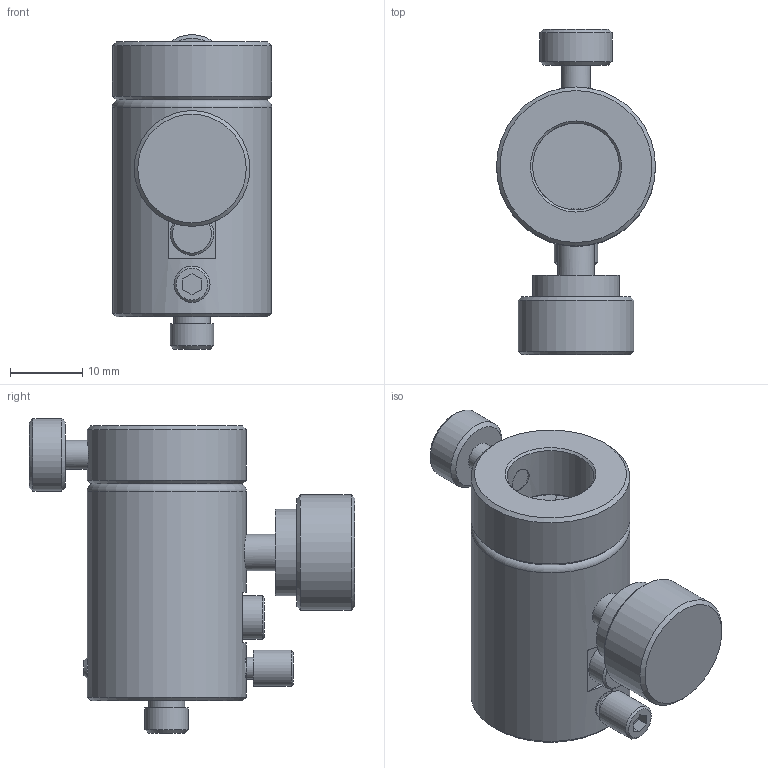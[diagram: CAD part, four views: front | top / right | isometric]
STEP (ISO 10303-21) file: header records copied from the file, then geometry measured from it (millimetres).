
FILE_DESCRIPTION(/* description */ (''),/* implementation_level */ '2;1');
FILE_NAME(/* name */ 'Y:\2_OpticalHard\03_Bases\BRS\BRS-12-□□-M6\BRS-12-30-M6\WEBデータ\BRS-12-30-M6.stp',/* time_stamp */ '2022-09-14T13:38:50+09:00',/* author */ ('e.nonaka'),/* organization */ (''),/* preprocessor_version */ 'ST-DEVELOPER v18.1',/* originating_system */ 'Autodesk Inventor 2021',/* authorisation */ '');
FILE_SCHEMA (('AUTOMOTIVE_DESIGN { 1 0 10303 214 3 1 1 }'));
Length unit declared in the file: millimetre
Products named in the file (1): BRS1230M6-M02-22001-TS01
Bounding box: 22 x 45 x 43.5 mm (x, y, z)
Volume: 13492.3 mm3; surface area: 6228.8 mm2
Topology: 1 solids, 1 shells, 76 faces, 146 edges, 91 vertices
Faces by surface type: plane 31, cylinder 27, cone 16, sphere 1, torus 1
Full cylindrical faces by diameter (mm): 3 x1, 4 x1, 4.134 x1, 5 x3, 6 x2, 10 x1, 12 x2, 16 x1, 17 x1, 22 x2
Entity records: 2273 total; most frequent: CARTESIAN_POINT 570, DIRECTION 352, ORIENTED_EDGE 292, AXIS2_PLACEMENT_3D 148, EDGE_CURVE 146, EDGE_LOOP 95, VERTEX_POINT 91, STYLED_ITEM 77
